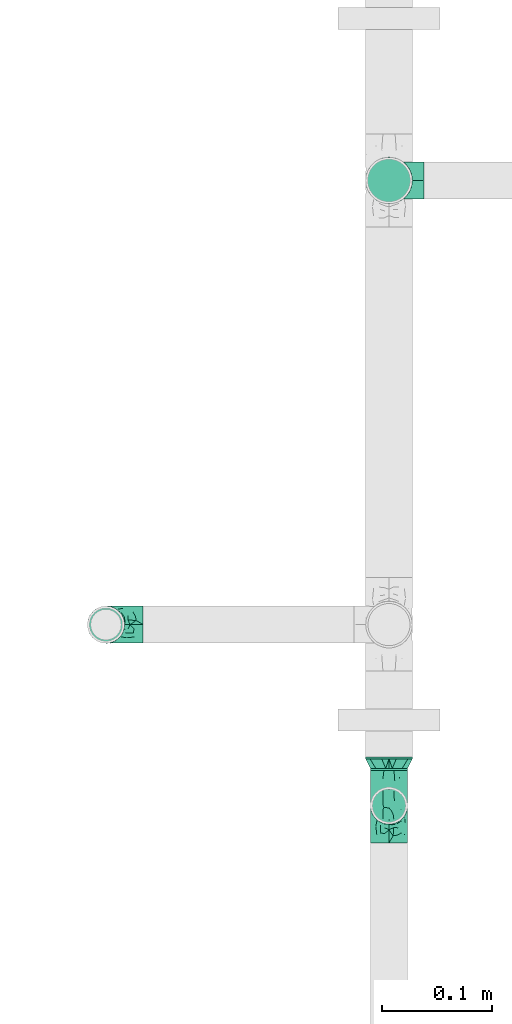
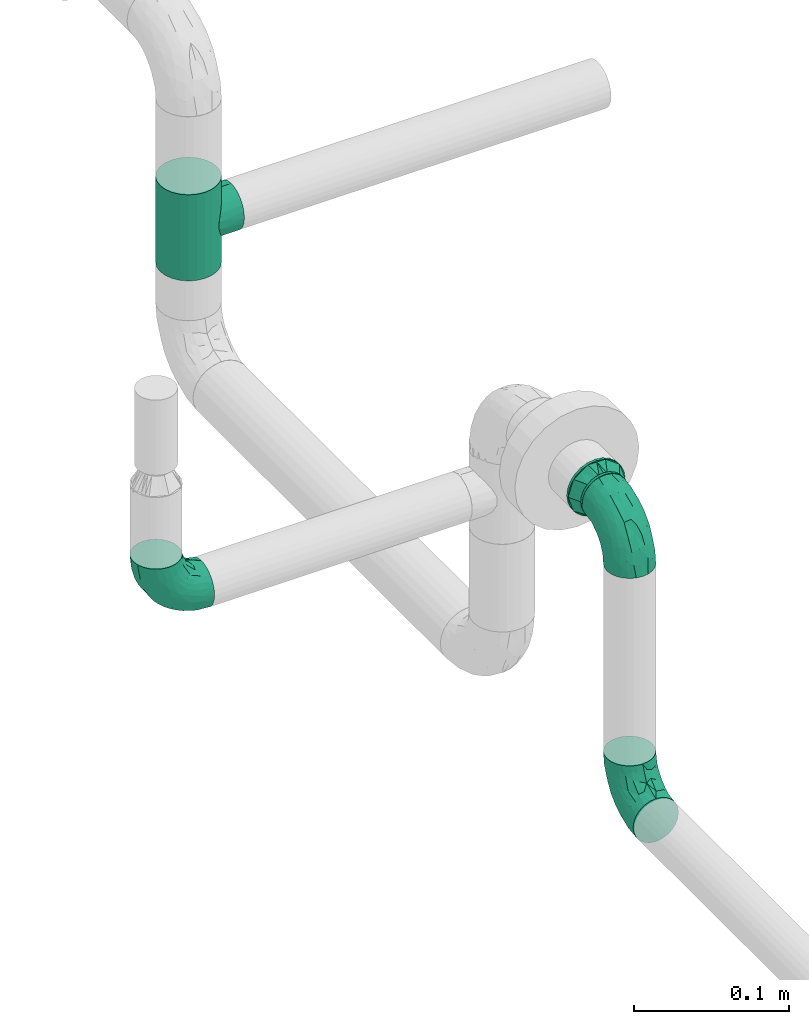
# One storey, part 18 of 43: 5 flow fittings.
"""IFC2X3 building model written with IfcOpenShell, lengths in millimetres."""

import ifcopenshell
import ifcopenshell.guid

model = None  # the IFC model being written
_history = None  # IfcOwnerHistory: only IFC2X3 demands one
_inside = {}  # id of a spatial element -> (the spatial element, [elements in it])
_under = {}  # id of a project, library or spatial element -> (it, [spatial elements below it])
_declared = {}  # id of a project -> (the project, [libraries it declares])
_typed = {}  # id of a type object -> (the type object, [elements of that type])
_made_of = {}  # id of a material, layer set ... -> (it, [elements and type objects made of it])


def new_model(schema):
    """Start an empty IFC model of exactly this schema.

    Asked for "IFC4X3", IfcOpenShell would pick the latest addendum, in which some entities
    have other attributes; the version numbers below select the first issue.
    IFC2X3 requires an IfcOwnerHistory on every rooted entity: one is made here for all.
    """
    global model, _history
    if schema == "IFC4X3":
        model = ifcopenshell.file(schema_version=(4, 3, 0, 0))
    else:
        model = ifcopenshell.file(schema=schema)
    _inside.clear()
    _under.clear()
    _declared.clear()
    _typed.clear()
    _made_of.clear()
    _history = None
    if model.schema == "IFC2X3":
        org = make("IfcOrganization", Name="unknown")
        user = make(
            "IfcPersonAndOrganization",
            ThePerson=make("IfcPerson", FamilyName="unknown"),
            TheOrganization=org,
        )
        app = make(
            "IfcApplication",
            ApplicationDeveloper=org,
            Version="unknown",
            ApplicationFullName="unknown",
            ApplicationIdentifier="unknown",
        )
        _history = make(
            "IfcOwnerHistory",
            OwningUser=user,
            OwningApplication=app,
            ChangeAction="ADDED",
            CreationDate=0,
        )
    return model


def make(cls, **values):
    """One entity of the class cls with the attributes given. An attribute that is None is left unset."""
    return model.create_entity(
        cls, **{name: value for name, value in values.items() if value is not None}
    )


def entity(cls, *values):
    """Any entity or typed value of the class cls, its attributes in the order of the schema. None: left unset."""
    e = model.create_entity(cls)
    for i, value in enumerate(values):
        if value is not None:
            e[i] = value
    return e


def rooted(cls, **values):
    """An entity with a GlobalId (a new one), such as an element, a storey or a relation."""
    return make(cls, GlobalId=ifcopenshell.guid.new(), OwnerHistory=_history, **values)


def si_unit(unit_type, name, prefix=None):
    """IfcSIUnit, for example si_unit("LENGTHUNIT", "METRE", prefix="MILLI")."""
    return make("IfcSIUnit", UnitType=unit_type, Prefix=prefix, Name=name)


def converted_unit(unit_type, name, factor, base, dimensions=None, offset=None):
    """IfcConversionBasedUnit, such as the inch: factor (a typed value) times the base unit."""
    return make(
        "IfcConversionBasedUnit"
        if offset is None
        else "IfcConversionBasedUnitWithOffset",
        ConversionOffset=offset,
        Dimensions=None
        if dimensions is None
        else entity("IfcDimensionalExponents", *dimensions),
        UnitType=unit_type,
        Name=name,
        ConversionFactor=make(
            "IfcMeasureWithUnit", ValueComponent=factor, UnitComponent=base
        ),
    )


def derived_unit(unit_type, elements):
    """IfcDerivedUnit: a product of units, each with its exponent."""
    return make(
        "IfcDerivedUnit",
        Elements=[
            make("IfcDerivedUnitElement", Unit=unit, Exponent=power)
            for unit, power in elements
        ],
        UnitType=unit_type,
    )


def assignment(units):
    """IfcUnitAssignment: the units of a project."""
    return None if units is None else make("IfcUnitAssignment", Units=units)


def point(xyz):
    """IfcCartesianPoint."""
    return None if xyz is None else make("IfcCartesianPoint", Coordinates=xyz)


def direction(xyz):
    """IfcDirection."""
    return None if xyz is None else make("IfcDirection", DirectionRatios=xyz)


def frame(location, z_axis=None, x_axis=None):
    """IfcAxis2Placement3D, a coordinate frame: its origin and axes. An axis left out is left unset."""
    return make(
        "IfcAxis2Placement3D",
        Location=point(location),
        Axis=direction(z_axis),
        RefDirection=direction(x_axis),
    )


def origin_with_axes():
    """The frame at (0, 0, 0) with the z axis (0, 0, 1) and the x axis (1, 0, 0) written out."""
    return frame((0.0, 0.0, 0.0), z_axis=(0.0, 0.0, 1.0), x_axis=(1.0, 0.0, 0.0))


def place(relative_to, where):
    """IfcLocalPlacement: puts the frame where relative to a parent placement (None: the world)."""
    return make(
        "IfcLocalPlacement", PlacementRelTo=relative_to, RelativePlacement=where
    )


def context(
    kind, dimensions, precision=None, world=None, true_north=None, identifier=None
):
    """IfcGeometricRepresentationContext, for example the 3D "Model" context."""
    return make(
        "IfcGeometricRepresentationContext",
        ContextIdentifier=identifier,
        ContextType=kind,
        CoordinateSpaceDimension=dimensions,
        Precision=precision,
        WorldCoordinateSystem=world,
        TrueNorth=true_north,
    )


def subcontext(parent, identifier, kind, view, scale=None):
    """IfcGeometricRepresentationSubContext, for example "Body" below "Model"."""
    return make(
        "IfcGeometricRepresentationSubContext",
        ContextIdentifier=identifier,
        ContextType=kind,
        ParentContext=parent,
        TargetScale=scale,
        TargetView=view,
    )


def project(units=None, contexts=None):
    """IfcProject with its units and contexts."""
    return rooted(
        "IfcProject",
        Name="project",
        RepresentationContexts=contexts,
        UnitsInContext=assignment(units),
    )


def spatial(cls, under=None, at=None, **own):
    """A site, building, storey or space (cls), placed at a placement, below another one or the project."""
    s = rooted(cls, ObjectPlacement=at, **own)
    if under is not None:
        _under.setdefault(under.id(), (under, []))[1].append(s)
    return s


def faces_of(points, faces, orient=None, outer=None):
    """IfcFace entities. A face is a list of loops; a loop is a list of indices into points, from 0.

    orient and outer hold one flag for each loop. By default every Orientation is true, the
    first loop of a face is its IfcFaceOuterBound and the others are IfcFaceBound.
    """
    made = []
    for i, loops in enumerate(faces):
        bounds = []
        for j, loop in enumerate(loops):
            is_outer = j == 0 if outer is None else outer[i][j]
            bounds.append(
                make(
                    "IfcFaceOuterBound" if is_outer else "IfcFaceBound",
                    Bound=make("IfcPolyLoop", Polygon=[points[k] for k in loop]),
                    Orientation=True if orient is None else orient[i][j],
                )
            )
        made.append(make("IfcFace", Bounds=bounds))
    return made


def open_shell(faces, orient=None, outer=None):
    """The faces of one IfcOpenShell. surface_model builds it on its shared points."""
    return ("IfcOpenShell", faces, orient, outer)


def surface_model(cls, points, shells):
    """IfcFaceBasedSurfaceModel or IfcShellBasedSurfaceModel (cls): surfaces that need not close."""
    shared = [point(p) for p in points]
    made = [make(c, CfsFaces=faces_of(shared, fs, o, b)) for c, fs, o, b in shells]
    if cls == "IfcFaceBasedSurfaceModel":
        return make(cls, FbsmFaces=made)
    return make(cls, SbsmBoundary=made)


def shape(context_of_items, identifier, shape_type, items):
    """IfcShapeRepresentation: the items that make up one representation, for example the "Body"."""
    return make(
        "IfcShapeRepresentation",
        ContextOfItems=context_of_items,
        RepresentationIdentifier=identifier,
        RepresentationType=shape_type,
        Items=items,
    )


def source(mapping_origin, context_of_items, identifier, shape_type, items):
    """IfcRepresentationMap: a shape defined once, which mapped items show again and again."""
    return make(
        "IfcRepresentationMap",
        MappingOrigin=mapping_origin,
        MappedRepresentation=shape(context_of_items, identifier, shape_type, items),
    )


def transform(
    local_origin,
    x_axis=None,
    y_axis=None,
    z_axis=None,
    scale=None,
    scale2=None,
    scale3=None,
    uniform=True,
):
    """IfcCartesianTransformationOperator3D, or its non-uniform kind. x_axis, y_axis, z_axis: its Axis1, 2, 3."""
    if uniform:
        return make(
            "IfcCartesianTransformationOperator3D",
            Axis1=direction(x_axis),
            Axis2=direction(y_axis),
            LocalOrigin=point(local_origin),
            Scale=scale,
            Axis3=direction(z_axis),
        )
    return make(
        "IfcCartesianTransformationOperator3DnonUniform",
        Axis1=direction(x_axis),
        Axis2=direction(y_axis),
        LocalOrigin=point(local_origin),
        Scale=scale,
        Axis3=direction(z_axis),
        Scale2=scale2,
        Scale3=scale3,
    )


def mapped(mapping_source, mapping_target):
    """IfcMappedItem: shows the shape of a source again, moved by a transform."""
    return make(
        "IfcMappedItem", MappingSource=mapping_source, MappingTarget=mapping_target
    )


def made_of(thing, what):
    """Note that an element or type object is made of a material, layer set ...; save() writes the relation."""
    if what is not None:
        _made_of.setdefault(what.id(), (what, []))[1].append(thing)
    return thing


def type_object(cls, material=None, **own):
    """A type object (cls), such as IfcWallType, which elements share."""
    return made_of(rooted(cls, **own), material)


def element(
    cls,
    number,
    at=None,
    inside=None,
    cuts=None,
    type_object=None,
    material=None,
    context=None,
    identifier="Body",
    shape_type=None,
    held_by="IfcProductDefinitionShape",
    body=None,
    shapes=None,
    **own,
):
    """One element of the class cls, such as IfcWall. Its Tag is "e" and its number.

    at: its placement. inside: the storey or other place that contains it. cuts: it is an
    opening in that element (IfcRelVoidsElement). A single representation is given by context,
    identifier, shape_type and body (its items); several are given by shapes. held_by: the class
    of the entity that holds the representations. save() writes the other relations.
    """
    e = rooted(cls, Tag="e%d" % number, ObjectPlacement=at, **own)
    if body is not None:
        shapes = [shape(context, identifier, shape_type, body)]
    if shapes is not None:
        e.Representation = make(held_by, Representations=shapes)
    if inside is not None:
        _inside.setdefault(inside.id(), (inside, []))[1].append(e)
    if cuts is not None:
        rooted(
            "IfcRelVoidsElement", RelatingBuildingElement=cuts, RelatedOpeningElement=e
        )
    if type_object is not None:
        _typed.setdefault(type_object.id(), (type_object, []))[1].append(e)
    return made_of(e, material)


def aggregate(whole, parts):
    """IfcRelAggregates: a whole, such as a stair, and the parts it consists of."""
    return rooted("IfcRelAggregates", RelatingObject=whole, RelatedObjects=parts)


def save(model, path):
    """Write the relations noted so far, then the file.

    IfcRelAggregates (storeys below a building ...), IfcRelContainedInSpatialStructure (elements
    in a storey), IfcRelDefinesByType, IfcRelAssociatesMaterial and IfcRelDeclares: one each for
    every whole, place, type object, material and project.
    """
    for whole, parts in _under.values():
        aggregate(whole, parts)
    for where, things in _inside.values():
        rooted(
            "IfcRelContainedInSpatialStructure",
            RelatedElements=things,
            RelatingStructure=where,
        )
    for kind, things in _typed.values():
        rooted("IfcRelDefinesByType", RelatedObjects=things, RelatingType=kind)
    for what, things in _made_of.values():
        rooted("IfcRelAssociatesMaterial", RelatedObjects=things, RelatingMaterial=what)
    for by, libraries in _declared.values():
        rooted("IfcRelDeclares", RelatingContext=by, RelatedDefinitions=libraries)
    model.write(path)


model = new_model("IFC2X3")

# Units and contexts
model_context = context("Model", 3, precision=0.01, world=frame((0.0, 4.29681676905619e-09, 0.0)), true_north=direction((4.01073788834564e-13, 1.0)))
plan_context = context("Plan", 3, precision=0.01, world=frame((0.0, 4.29681676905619e-09, 0.0)), true_north=direction((4.01073788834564e-13, 1.0)))
body_context = subcontext(model_context, "Body", "Model", "MODEL_VIEW")
ifc_project = project(units=[converted_unit("PLANEANGLEUNIT", "DEGREE", entity("IfcPositiveLengthMeasure", 0.0174532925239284), si_unit("PLANEANGLEUNIT", "RADIAN"), dimensions=[0, 0, 0, 0, 0, 0, 0]), si_unit("AREAUNIT", "SQUARE_METRE"), si_unit("LENGTHUNIT", "METRE", prefix="MILLI"), si_unit("MASSUNIT", "GRAM", prefix="KILO"), si_unit("POWERUNIT", "WATT"), si_unit("PRESSUREUNIT", "PASCAL"), si_unit("FORCEUNIT", "NEWTON", prefix="KILO"), si_unit("ELECTRICVOLTAGEUNIT", "VOLT"), si_unit("ELECTRICCURRENTUNIT", "AMPERE"), si_unit("THERMODYNAMICTEMPERATUREUNIT", "DEGREE_CELSIUS"), si_unit("TIMEUNIT", "SECOND"), si_unit("VOLUMEUNIT", "CUBIC_METRE"), derived_unit("LINEARVELOCITYUNIT", [(si_unit("LENGTHUNIT", "METRE"), 1), (si_unit("TIMEUNIT", "SECOND"), -1)]), derived_unit("VOLUMETRICFLOWRATEUNIT", [(si_unit("VOLUMEUNIT", "CUBIC_METRE"), 1), (si_unit("TIMEUNIT", "SECOND"), -1)]), derived_unit("THERMALTRANSMITTANCEUNIT", [(si_unit("POWERUNIT", "WATT"), 1), (si_unit("THERMODYNAMICTEMPERATUREUNIT", "KELVIN"), -1), (si_unit("AREAUNIT", "SQUARE_METRE"), -1)]), derived_unit("SOUNDPRESSUREUNIT", [(si_unit("PRESSUREUNIT", "PASCAL"), 1)])], contexts=[model_context, plan_context])

# Site, building, storey
site_placement = place(None, frame((0.0, -4.29681676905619e-09, 0.0), z_axis=(0.0, 0.0, 1.0), x_axis=(1.0, 0.0, 0.0)))
site = spatial("IfcSite", under=ifc_project, at=site_placement, CompositionType="ELEMENT")
building_placement = place(site_placement, frame((0.0, 4.29681676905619e-09, 0.0), z_axis=(0.0, 0.0, 1.0), x_axis=(1.0, 0.0, 0.0)))
building = spatial("IfcBuilding", under=site, at=building_placement, Name="mc-building", CompositionType="ELEMENT")
storey_placement = place(building_placement, frame((0.0, 0.0, 210900.0), z_axis=(0.0, 0.0, 1.0), x_axis=(1.0, 0.0, 0.0)))
storey = spatial("IfcBuildingStorey", under=building, at=storey_placement, Name="Nivå F", CompositionType="ELEMENT", Elevation=210900.0)

# Flow fittings
pipe_fitting_type_1 = type_object("IfcPipeFittingType", Name="magi_pipe_fe_elbow_short_001", PredefinedType="BEND")
shared_shape_1 = source(origin_with_axes(), body_context, "Body", "SurfaceModel", [
    surface_model("IfcShellBasedSurfaceModel", [(-33.8, 4.37404, -16.32415), (-33.8, 0.0, -16.9), (-33.8, 11.9501, -11.9501), (-33.8, 8.45, -14.63583), (-33.8, 16.32415, -4.37404), (-33.8, 14.63583, -8.45), (-33.8, -14.63583, -8.45), (-33.8, -16.32415, -4.37404), (-33.8, -8.45, 14.63583), (-33.8, -11.9501, -11.9501), (-33.8, -8.45, -14.63583), (-33.8, -4.37404, -16.32415), (-33.8, -16.9, 0.0), (-33.8, -16.32415, 4.37404), (-33.8, 11.9501, 11.9501), (-33.8, 14.63583, 8.45), (-33.8, 16.32415, 4.37404), (-33.8, 4.37404, 16.32415), (-33.8, 8.45, 14.63583), (-33.8, -14.63583, 8.45), (-33.8, -11.9501, 11.9501), (-33.8, -4.37404, 16.32415), (-33.8, 0.0, 16.9), (-33.8, 16.9, 0.0), (-11.9501, 33.8, -11.9501), (0.0, 33.8, -16.9), (-4.37404, 33.8, -16.32415), (-8.45, 33.8, -14.63583), (-14.63583, 33.8, -8.45), (-16.32415, 33.8, -4.37404), (14.63583, 33.8, -8.45), (8.45, 33.8, 14.63583), (16.32415, 33.8, -4.37404), (8.45, 33.8, -14.63583), (11.9501, 33.8, -11.9501), (4.37404, 33.8, -16.32415), (16.32415, 33.8, 4.37404), (16.9, 33.8, 0.0), (-11.9501, 33.8, 11.9501), (-16.32415, 33.8, 4.37404), (-14.63583, 33.8, 8.45), (-8.45, 33.8, 14.63583), (-4.37404, 33.8, 16.32415), (11.9501, 33.8, 11.9501), (14.63583, 33.8, 8.45), (0.0, 33.8, 16.9), (4.37404, 33.8, 16.32415), (-16.9, 33.8, 0.0), (-24.79389, -13.12945, 9.48721), (-22.19287, -9.75018, 12.59315), (-24.09897, -14.97035, 0.0), (-14.93934, -10.76256, 8.5297), (-22.46095, -14.75051, 5.27077), (14.75051, 22.46094, 5.27077), (11.9251, 13.23888, 4.33236), (13.04069, 14.39795, 0.0), (7.71387, 13.68847, 11.55891), (9.75018, 22.19287, 12.59315), (4.10169, 13.0571, 14.04018), (-24.84007, -6.39063, 15.2048), (-25.81779, -2.23879, 16.61097), (-23.66549, 2.59054, 16.87119), (-26.50418, 14.06512, 11.08152), (-24.21253, 17.66365, 7.72657), (-29.58514, 15.86957, 7.00283), (-6.17382, -7.5455, 0.0), (-13.23888, -11.9251, 4.33236), (-14.39795, -13.04069, 0.0), (-17.81434, 18.87373, 11.97104), (-6.30846, 29.15138, 15.82987), (-2.31622, 25.28002, 16.85849), (-29.23923, 10.23435, 13.77053), (-1.45439, -2.85688, 7.61475), (-0.28326, 0.34872, 10.09509), (-5.74484, -4.04709, 10.4122), (-4.41137, 11.31918, 16.59407), (-8.39727, 3.10034, 15.7812), (-1.72649, 9.1306, 15.53089), (-17.39909, 24.75344, 7.64977), (-26.19233, 20.0512, 0.0), (-28.14518, 17.29657, 4.25857), (-26.05147, 6.6281, 15.96447), (-5.87354, 16.61944, 16.86968), (-12.51807, 12.51807, 16.48937), (-10.06312, 7.38516, 16.81295), (-3.01882, 3.01882, 13.81718), (-13.0571, -4.10169, 14.04018), (-16.82553, -0.15166, 16.38038), (10.76256, 14.93934, 8.5297), (13.12945, 24.79389, 9.48721), (6.39063, 24.84007, 15.2048), (2.23879, 25.81779, 16.61097), (-13.68847, -7.71387, 11.55891), (14.97035, 24.09897, 0.0), (-7.30894, 22.89991, 16.09489), (-10.67958, 26.17414, 14.008), (-12.78295, 18.26924, 15.06066), (-13.88562, 22.45231, 12.93244), (-18.04944, 15.16501, 14.04434), (-23.11658, 20.08178, 4.02986), (-21.84989, 21.84989, 0.0), (-18.55817, 25.48277, 3.93065), (-13.95142, 26.94732, 11.03289), (-18.57098, 7.23906, 16.59756), (-16.58335, 4.14122, 16.89279), (-17.96666, 11.46709, 15.63151), (-9.84453, 17.54304, 16.18938), (0.15166, 16.82553, 16.38038), (-23.27207, 11.47201, 14.23154), (3.84842, 5.86994, 10.70473), (-8.0212, -7.54413, 7.93275), (1.00345, -2.19508, 4.57414), (5.13203, 3.01004, 5.90201), (5.24161, 1.7543, 2.53265), (8.70457, 7.04947, 3.99182), (-20.0512, 26.19233, 0.0), (8.4852, 8.76699, 7.09296), (-4.55488, -6.72064, 4.90681), (2.05031, -2.05031, 0.0), (7.5455, 6.17382, 0.0), (-26.75399, 2.1369, -16.845), (-14.61995, 24.73803, -11.27736), (-28.45274, -13.45335, -9.81895), (-26.00469, 6.63555, -15.96645), (-23.06726, 20.04573, -4.26202), (-13.80647, -4.26506, -14.17873), (-14.67501, -0.21081, -16.07388), (-6.7902, -0.2828, -13.8478), (-24.53586, 11.08096, -14.13417), (-26.72048, 14.00837, -11.05776), (10.0967, 24.44989, -12.75976), (5.83237, 21.40218, -15.03047), (6.66249, 28.54238, -15.38093), (-20.38182, 15.48705, -12.74596), (-15.65186, 19.64213, -13.01327), (-12.03528, 20.66498, -14.67665), (-15.61907, 15.61906, -14.83879), (-25.56551, -15.26206, 0.0), (-24.65452, -15.12934, -5.50955), (12.53268, 21.23441, -9.15363), (13.45335, 28.45274, -9.81895), (15.12934, 24.65452, -5.50955), (-7.35442, -8.31014, -5.65563), (-15.67504, -12.54494, -5.54878), (-24.44989, -10.0967, -12.75976), (0.16522, 0.41303, -9.71728), (-5.70658, -5.33066, -8.89288), (-5.13869, -2.37198, -11.53565), (-21.23441, -12.53268, -9.15363), (0.71146, 7.93863, -14.09382), (0.21081, 14.67501, -16.07388), (3.49291, 14.42772, -14.76381), (-24.89911, -2.13088, -16.591), (-28.54238, -6.66249, -15.38093), (-18.44386, -7.71663, -13.26957), (2.13088, 24.89911, -16.591), (-28.64342, 17.44413, -2.89318), (1.70017, -1.28722, -5.09504), (-16.57067, 26.81947, -7.36596), (-17.69055, 27.4263, -3.76405), (-12.89279, -9.7522, -8.66343), (-5.96611, 5.96611, -15.95814), (-20.53709, 20.09345, -8.28985), (-2.1369, 26.75399, -16.845), (-6.89872, 24.58781, -16.02578), (-10.60739, 26.53157, -13.98044), (-21.40218, -5.83237, -15.03047), (2.93192, 5.89627, -11.55917), (6.89393, 12.61842, -11.82233), (5.58056, 5.95325, -8.79455), (-3.99512, 18.61798, -16.89635), (-9.1383, 9.86148, -16.89041), (-9.99983, 16.02119, -16.39699), (-16.68576, 9.78031, -16.34199), (-27.01915, 16.61158, -7.12979), (15.26206, 25.56551, 0.0), (-18.61798, 3.99512, -16.89635), (-19.37495, 27.82495, 0.0), (9.7522, 12.89279, -8.66343), (-12.61842, -6.89393, -11.82233), (8.31014, 7.35442, -5.65563), (-18.84705, 19.14018, -10.96545), (12.54494, 15.67504, -5.54878)], [open_shell([[[0, 1, 2]], [[3, 0, 2]], [[4, 5, 2]], [[6, 2, 1]], [[2, 7, 8]], [[9, 6, 10]], [[1, 11, 10]], [[10, 6, 1]], [[2, 6, 7]], [[12, 13, 7]], [[4, 2, 14]], [[4, 15, 16]], [[4, 14, 15]], [[17, 18, 14]], [[14, 2, 8]], [[17, 14, 8]], [[19, 20, 13]], [[20, 7, 13]], [[21, 22, 8]], [[20, 8, 7]], [[8, 22, 17]], [[4, 16, 23]], [[24, 25, 26]], [[24, 26, 27]], [[24, 28, 29]], [[25, 24, 30]], [[31, 32, 24]], [[33, 30, 34]], [[33, 35, 25]], [[25, 30, 33]], [[32, 30, 24]], [[32, 36, 37]], [[38, 24, 29]], [[39, 40, 29]], [[40, 38, 29]], [[38, 41, 42]], [[38, 31, 24]], [[31, 38, 42]], [[36, 43, 44]], [[36, 32, 43]], [[31, 45, 46]], [[32, 31, 43]], [[42, 45, 31]], [[39, 29, 47]], [[20, 48, 49]], [[13, 12, 50]], [[51, 48, 52]], [[53, 54, 55]], [[48, 20, 19]], [[13, 52, 19]], [[56, 57, 58]], [[49, 8, 20]], [[49, 59, 8]], [[22, 60, 61]], [[62, 63, 64]], [[65, 66, 67]], [[57, 43, 31]], [[62, 68, 63]], [[42, 69, 70]], [[18, 71, 14]], [[21, 60, 22]], [[72, 73, 74]], [[75, 76, 77]], [[14, 62, 15]], [[40, 39, 78]], [[79, 23, 80]], [[64, 16, 15]], [[22, 61, 17]], [[17, 81, 18]], [[82, 83, 84]], [[74, 85, 86]], [[59, 86, 87]], [[88, 89, 57]], [[90, 31, 46]], [[44, 53, 36]], [[46, 45, 91]], [[54, 53, 88]], [[44, 89, 53]], [[92, 86, 49]], [[89, 44, 43]], [[8, 59, 21]], [[53, 55, 93]], [[93, 36, 53]], [[66, 52, 67]], [[94, 82, 70]], [[95, 96, 94]], [[97, 98, 96]], [[79, 99, 100]], [[41, 38, 95]], [[101, 100, 99]], [[68, 78, 63]], [[42, 41, 69]], [[23, 16, 80]], [[95, 94, 69]], [[78, 101, 99]], [[38, 102, 95]], [[70, 45, 42]], [[97, 95, 102]], [[13, 50, 52]], [[90, 57, 31]], [[57, 90, 58]], [[81, 17, 61]], [[103, 104, 84]], [[105, 81, 103]], [[38, 40, 102]], [[106, 96, 83]], [[94, 106, 82]], [[91, 70, 107]], [[71, 62, 14]], [[62, 108, 98]], [[86, 59, 49]], [[67, 52, 50]], [[60, 59, 87]], [[92, 49, 51]], [[86, 85, 76]], [[91, 90, 46]], [[37, 36, 93]], [[107, 77, 58]], [[107, 58, 90]], [[58, 85, 109]], [[110, 74, 92]], [[72, 74, 110]], [[66, 51, 52]], [[72, 111, 112]], [[113, 114, 112]], [[56, 88, 57]], [[52, 48, 19]], [[49, 48, 51]], [[57, 89, 43]], [[53, 89, 88]], [[103, 81, 61]], [[71, 81, 108]], [[16, 64, 80]], [[63, 78, 99]], [[47, 115, 101]], [[101, 115, 100]], [[40, 78, 102]], [[68, 102, 78]], [[97, 96, 95]], [[105, 98, 108]], [[103, 84, 83]], [[107, 70, 82]], [[76, 84, 87]], [[82, 84, 75]], [[70, 91, 45]], [[90, 91, 107]], [[59, 60, 21]], [[61, 60, 87]], [[73, 85, 74]], [[109, 112, 116]], [[103, 61, 104]], [[105, 103, 83]], [[96, 105, 83]], [[81, 105, 108]], [[96, 98, 105]], [[62, 98, 68]], [[61, 87, 104]], [[87, 84, 104]], [[86, 76, 87]], [[77, 76, 85]], [[58, 77, 85]], [[75, 77, 107]], [[82, 75, 107]], [[76, 75, 84]], [[81, 71, 18]], [[62, 71, 108]], [[95, 69, 41]], [[70, 69, 94]], [[62, 64, 15]], [[80, 63, 99]], [[63, 80, 64]], [[80, 99, 79]], [[66, 65, 117]], [[110, 66, 117]], [[112, 114, 116]], [[118, 117, 65]], [[110, 92, 51]], [[112, 111, 113]], [[119, 55, 54]], [[74, 86, 92]], [[58, 109, 56]], [[116, 56, 109]], [[66, 110, 51]], [[72, 110, 117]], [[111, 72, 117]], [[73, 112, 109]], [[117, 118, 111]], [[113, 111, 118]], [[118, 119, 113]], [[114, 119, 54]], [[119, 114, 113]], [[116, 54, 88]], [[54, 116, 114]], [[116, 88, 56]], [[112, 73, 72]], [[85, 73, 109]], [[78, 39, 101]], [[47, 101, 39]], [[102, 68, 97]], [[97, 68, 98]], [[82, 106, 83]], [[94, 96, 106]], [[0, 120, 1]], [[28, 24, 121]], [[9, 122, 6]], [[3, 123, 0]], [[100, 124, 79]], [[125, 126, 127]], [[128, 2, 129]], [[130, 131, 132]], [[128, 129, 133]], [[134, 135, 136]], [[128, 3, 2]], [[67, 137, 138]], [[139, 140, 141]], [[138, 7, 6]], [[142, 65, 143]], [[144, 9, 10]], [[145, 146, 147]], [[143, 138, 148]], [[149, 150, 151]], [[152, 11, 1]], [[10, 153, 144]], [[148, 144, 154]], [[153, 10, 11]], [[35, 155, 25]], [[23, 79, 156]], [[146, 157, 142]], [[158, 159, 29]], [[143, 160, 142]], [[161, 150, 149]], [[29, 28, 158]], [[121, 162, 158]], [[33, 34, 130]], [[25, 163, 26]], [[26, 163, 164]], [[140, 34, 30]], [[24, 27, 165]], [[124, 159, 162]], [[155, 35, 132]], [[153, 152, 166]], [[123, 3, 128]], [[167, 168, 169]], [[170, 155, 150]], [[26, 164, 27]], [[132, 35, 33]], [[140, 130, 34]], [[166, 152, 126]], [[133, 134, 136]], [[2, 5, 129]], [[168, 131, 130]], [[30, 32, 141]], [[170, 171, 172]], [[173, 123, 128]], [[156, 174, 4]], [[165, 27, 164]], [[172, 164, 170]], [[134, 165, 135]], [[122, 138, 6]], [[137, 12, 7]], [[32, 37, 175]], [[168, 130, 139]], [[150, 155, 131]], [[163, 155, 170]], [[151, 168, 149]], [[150, 161, 171]], [[166, 125, 154]], [[122, 144, 148]], [[120, 152, 1]], [[176, 171, 126]], [[176, 126, 152]], [[126, 161, 127]], [[160, 143, 148]], [[137, 7, 138]], [[32, 175, 141]], [[55, 141, 175]], [[174, 129, 5]], [[128, 133, 136]], [[173, 128, 136]], [[120, 123, 176]], [[121, 158, 28]], [[159, 100, 177]], [[164, 172, 135]], [[121, 24, 165]], [[159, 47, 29]], [[79, 124, 156]], [[124, 162, 174]], [[159, 124, 100]], [[178, 169, 168]], [[127, 161, 149]], [[145, 169, 157]], [[146, 142, 160]], [[127, 149, 167]], [[127, 179, 125]], [[129, 174, 162]], [[5, 4, 174]], [[157, 65, 142]], [[67, 138, 143]], [[123, 120, 0]], [[152, 120, 176]], [[155, 163, 25]], [[164, 163, 170]], [[170, 150, 171]], [[173, 136, 172]], [[126, 171, 161]], [[173, 171, 176]], [[171, 173, 172]], [[123, 173, 176]], [[148, 179, 160]], [[127, 147, 179]], [[179, 146, 160]], [[157, 146, 145]], [[169, 178, 180]], [[168, 139, 178]], [[157, 169, 180]], [[169, 145, 167]], [[167, 145, 147]], [[149, 168, 167]], [[162, 181, 129]], [[181, 121, 134]], [[179, 147, 146]], [[167, 147, 127]], [[181, 134, 133]], [[165, 134, 121]], [[164, 135, 165]], [[172, 136, 135]], [[129, 181, 133]], [[121, 181, 162]], [[159, 158, 162]], [[47, 159, 177]], [[174, 156, 124]], [[23, 156, 4]], [[130, 132, 33]], [[155, 132, 131]], [[141, 140, 30]], [[130, 140, 139]], [[152, 153, 11]], [[144, 153, 166]], [[144, 122, 9]], [[138, 122, 148]], [[150, 131, 151]], [[157, 119, 118]], [[67, 143, 65]], [[168, 151, 131]], [[119, 157, 180]], [[157, 118, 65]], [[154, 125, 179]], [[126, 125, 166]], [[148, 154, 179]], [[166, 154, 144]], [[139, 182, 178]], [[141, 182, 139]], [[178, 182, 180]], [[182, 55, 119]], [[141, 55, 182]], [[182, 119, 180]]])]),
])
for number, where, z_axis, x_axis, name in (
    (1, (610109.53901, 690991.77265, 2560.0), (0.00108100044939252, -0.999999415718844, 0.0), (0.0, 0.0, -1.0), "magi_pipe_fe_elbow_short_001"),
    (2, (610366.6122, 690827.40046, 2630.0), (1.0, 0.0, 0.0), (0.0, -1.0, 0.0), "magi_pipe_fe_elbow_short_001"),
    (3, (610366.6122, 690827.40046, 2415.0), (-1.0, 0.0, 0.0), (0.0, 0.0, -1.0), "magi_pipe_fe_elbow_short_001"),
):
    element("IfcFlowFitting", number, at=place(storey_placement, frame(where, z_axis=z_axis, x_axis=x_axis)), inside=storey, type_object=pipe_fitting_type_1, Name=name, context=body_context, shape_type="MappedRepresentation", body=[
        mapped(shared_shape_1, transform((0.0, 0.0, 0.0), scale=1.0)),
    ])
pipe_fitting_type_2 = type_object("IfcPipeFittingType", Name="magi_pipe_fe_tee_centric_90_NOR", PredefinedType="JUNCTION")
shared_shape_2 = source(origin_with_axes(), body_context, "Body", "SurfaceModel", [
    surface_model("IfcShellBasedSurfaceModel", [(-33.8, 0.0, -21.2), (-33.8, -5.48696, -20.47763), (-33.8, 5.48696, -20.47763), (-33.8, 10.6, -18.35974), (-33.8, 14.99066, -14.99066), (-33.8, -20.47763, 5.48696), (-33.8, 18.35974, -10.6), (-33.8, 10.6, 18.35974), (-33.8, -14.99066, -14.99066), (-33.8, -18.35974, -10.6), (-33.8, -10.6, -18.35974), (-33.8, -20.47763, -5.48696), (-33.8, -21.2, 0.0), (-33.8, 18.35974, 10.6), (-33.8, 20.47763, -5.48696), (-33.8, 20.47763, 5.48696), (-33.8, 21.2, 0.0), (-33.8, 14.99066, 14.99066), (-33.8, 5.48696, 20.47763), (-33.8, 0.0, 21.2), (-33.8, -18.35974, 10.6), (-33.8, -14.99066, 14.99066), (-33.8, -10.6, 18.35974), (-33.8, -5.48696, 20.47763), (33.8, 5.48696, -20.47763), (33.8, -5.48696, -20.47763), (33.8, 0.0, -21.2), (33.8, 14.99066, -14.99066), (33.8, 10.6, -18.35974), (33.8, 18.35974, -10.6), (33.8, 20.47763, -5.48696), (33.8, -21.2, 0.0), (33.8, -10.6, -18.35974), (33.8, -18.35974, -10.6), (33.8, -14.99066, -14.99066), (33.8, -20.47763, -5.48696), (33.8, -20.47763, 5.48696), (33.8, 21.2, 0.0), (33.8, 20.47763, 5.48696), (33.8, 18.35974, 10.6), (33.8, 10.6, 18.35974), (33.8, 14.99066, 14.99066), (33.8, 0.0, 21.2), (33.8, 5.48696, 20.47763), (33.8, -14.99066, 14.99066), (33.8, -18.35974, 10.6), (33.8, -10.6, 18.35974), (33.8, -5.48696, 20.47763), (16.9, -21.2, 0.0), (15.78624, -20.32327, 6.03364), (12.81343, -18.11115, 11.01935), (8.52479, -15.37862, 14.59239), (3.07939, -13.16482, 16.61708), (-16.9, -21.2, 0.0), (-15.78686, -20.32375, 6.032), (-8.52604, -15.37932, 14.59166), (-3.0848, -13.16609, 16.61608), (-12.81602, -18.11299, 11.01634), (3.07939, -13.16482, -16.61708), (12.81343, -18.11115, -11.01935), (8.52479, -15.37862, -14.59239), (15.78624, -20.32327, -6.03364), (-3.0848, -13.16609, -16.61608), (-8.52604, -15.37932, -14.59166), (-12.81602, -18.11299, -11.01634), (-15.78686, -20.32375, -6.032), (4.37404, -31.8, -16.32415), (-16.9, -31.8, 0.0), (0.0, -31.8, -16.9), (14.63583, -31.8, -8.45), (8.45, -31.8, -14.63583), (16.32415, -31.8, -4.37404), (11.9501, -31.8, -11.9501), (-11.9501, -31.8, -11.9501), (-8.45, -31.8, -14.63583), (-4.37404, -31.8, -16.32415), (-14.63583, -31.8, -8.45), (-16.32415, -31.8, -4.37404), (16.9, -31.8, 0.0), (8.45, -31.8, 14.63583), (16.32415, -31.8, 4.37404), (14.63583, -31.8, 8.45), (-8.45, -31.8, 14.63583), (11.9501, -31.8, 11.9501), (4.37404, -31.8, 16.32415), (-16.32415, -31.8, 4.37404), (-11.9501, -31.8, 11.9501), (-14.63583, -31.8, 8.45), (0.0, -31.8, 16.9), (-4.37404, -31.8, 16.32415), (-16.34343, -20.76188, 3.016), (16.34312, -20.76163, 3.01682), (-0.00271, -13.16546, 16.61658), (16.34312, -20.76163, -3.01682), (-0.00271, -13.16546, -16.61658), (-16.34343, -20.76188, -3.016)], [open_shell([[[0, 1, 2]], [[3, 2, 4]], [[5, 2, 1]], [[4, 2, 6]], [[6, 2, 7]], [[8, 9, 10]], [[1, 10, 9]], [[9, 11, 1]], [[12, 1, 11]], [[5, 1, 12]], [[13, 14, 6]], [[13, 15, 16]], [[6, 7, 13]], [[5, 7, 2]], [[17, 13, 7]], [[18, 7, 19]], [[20, 21, 5]], [[22, 5, 21]], [[23, 19, 22]], [[7, 5, 22]], [[22, 19, 7]], [[16, 14, 13]], [[24, 25, 26]], [[27, 24, 28]], [[29, 30, 24]], [[29, 24, 27]], [[31, 24, 30]], [[32, 33, 34]], [[33, 32, 25]], [[33, 31, 35]], [[31, 33, 25]], [[25, 24, 31]], [[30, 36, 31]], [[37, 38, 39]], [[37, 39, 40]], [[37, 40, 36]], [[40, 39, 41]], [[42, 40, 43]], [[36, 44, 45]], [[44, 36, 46]], [[46, 42, 47]], [[46, 36, 40]], [[40, 42, 46]], [[37, 36, 30]], [[31, 36, 48]], [[49, 48, 36]], [[36, 45, 49]], [[45, 44, 50]], [[51, 50, 44]], [[52, 51, 44]], [[44, 46, 52]], [[45, 50, 49]], [[53, 54, 5]], [[5, 12, 53]], [[54, 20, 5]], [[55, 56, 21]], [[20, 57, 21]], [[57, 20, 54]], [[21, 57, 55]], [[56, 22, 21]], [[52, 22, 56]], [[19, 47, 42]], [[23, 46, 47]], [[18, 42, 43]], [[39, 38, 15]], [[17, 40, 41]], [[13, 41, 39]], [[43, 40, 7]], [[16, 38, 37]], [[22, 46, 23]], [[23, 47, 19]], [[18, 19, 42]], [[43, 7, 18]], [[7, 40, 17]], [[13, 17, 41]], [[15, 13, 39]], [[38, 16, 15]], [[46, 22, 52]], [[6, 30, 29]], [[14, 37, 30]], [[4, 29, 27]], [[26, 25, 1]], [[2, 28, 24]], [[0, 24, 26]], [[27, 28, 3]], [[10, 25, 32]], [[16, 37, 14]], [[14, 30, 6]], [[4, 6, 29]], [[27, 3, 4]], [[3, 28, 2]], [[0, 2, 24]], [[1, 0, 26]], [[25, 10, 1]], [[32, 58, 10]], [[34, 59, 60]], [[59, 34, 33]], [[60, 58, 34]], [[34, 58, 32]], [[35, 31, 48]], [[35, 61, 33]], [[61, 35, 48]], [[33, 61, 59]], [[62, 63, 8]], [[8, 64, 9]], [[64, 8, 63]], [[62, 8, 10]], [[65, 53, 11]], [[65, 11, 9]], [[11, 53, 12]], [[65, 9, 64]], [[58, 62, 10]], [[66, 67, 68]], [[69, 66, 70]], [[69, 71, 66]], [[69, 70, 72]], [[67, 66, 71]], [[68, 73, 74]], [[74, 75, 68]], [[76, 67, 77]], [[73, 68, 76]], [[67, 76, 68]], [[71, 78, 67]], [[79, 78, 80]], [[79, 80, 81]], [[82, 67, 79]], [[79, 81, 83]], [[82, 79, 84]], [[85, 86, 87]], [[86, 85, 82]], [[82, 88, 89]], [[85, 67, 82]], [[84, 88, 82]], [[79, 67, 78]], [[85, 90, 67]], [[57, 87, 86]], [[85, 87, 54]], [[86, 82, 55]], [[85, 54, 90]], [[90, 53, 67]], [[54, 87, 57]], [[91, 49, 80]], [[55, 89, 56]], [[55, 57, 86]], [[88, 52, 92]], [[55, 82, 89]], [[52, 88, 84]], [[79, 51, 84]], [[50, 83, 81]], [[83, 51, 79]], [[81, 80, 49]], [[83, 50, 51]], [[51, 52, 84]], [[78, 91, 80]], [[49, 50, 81]], [[91, 78, 48]], [[88, 56, 89]], [[92, 56, 88]], [[71, 93, 78]], [[59, 69, 72]], [[71, 69, 61]], [[72, 70, 60]], [[93, 48, 78]], [[61, 69, 59]], [[60, 66, 58]], [[60, 59, 72]], [[68, 62, 94]], [[60, 70, 66]], [[95, 67, 53]], [[95, 65, 77]], [[71, 61, 93]], [[75, 62, 68]], [[65, 76, 77]], [[73, 76, 64]], [[68, 58, 66]], [[75, 63, 62]], [[63, 75, 74]], [[74, 73, 63]], [[63, 73, 64]], [[64, 76, 65]], [[67, 95, 77]], [[94, 58, 68]]])]),
])
flow_fitting_1_placement = place(storey_placement, frame((610366.6122, 691395.18624, 2522.5), z_axis=(0.0, -1.0, 0.0), x_axis=(0.0, 0.0, 1.0)))
element("IfcFlowFitting", 4, at=flow_fitting_1_placement, inside=storey, type_object=pipe_fitting_type_2, Name="magi_pipe_fe_tee_centric_90_NOR", context=body_context, shape_type="MappedRepresentation", body=[
    mapped(shared_shape_2, transform((0.0, 0.0, 0.0), scale=1.0)),
])
pipe_fitting_type_3 = type_object("IfcPipeFittingType", Name="magi_pipe_fe_reducer_centric_short_NOR", PredefinedType="TRANSITION")
shared_shape_3 = source(origin_with_axes(), body_context, "Body", "SurfaceModel", [
    surface_model("IfcShellBasedSurfaceModel", [(10.6, 4.37404, -16.32415), (10.6, 8.45, -14.63583), (10.6, 11.9501, -11.9501), (10.6, -8.45, -14.63583), (10.6, 16.32415, -4.37404), (10.6, 16.32415, 4.37404), (10.6, 14.63583, -8.45), (10.6, 0.0, -16.9), (10.6, -4.37404, -16.32415), (10.6, -11.9501, -11.9501), (10.6, -16.32415, -4.37404), (10.6, -14.63583, -8.45), (10.6, -16.32415, 4.37404), (10.6, 16.9, 0.0), (10.6, 14.63583, 8.45), (10.6, 11.9501, 11.9501), (10.6, 4.37404, 16.32415), (10.6, 8.45, 14.63583), (10.6, 0.0, 16.9), (10.6, -14.63583, 8.45), (10.6, -16.9, 0.0), (10.6, -8.45, 14.63583), (10.6, -11.9501, 11.9501), (10.6, -4.37404, 16.32415), (8.6, 4.37404, 16.32415), (8.6, -14.63583, 8.45), (8.6, 0.0, 16.9), (8.6, 16.32415, 4.37404), (8.6, 8.45, 14.63583), (8.6, 11.9501, 11.9501), (8.6, 14.63583, 8.45), (8.6, -8.45, 14.63583), (8.6, -11.9501, 11.9501), (8.6, -4.37404, 16.32415), (8.6, -16.32415, 4.37404), (8.6, -16.32415, -4.37404), (8.6, -16.9, 0.0), (8.6, -8.45, -14.63583), (8.6, 16.32415, -4.37404), (8.6, 11.9501, -11.9501), (8.6, 14.63583, -8.45), (8.6, 8.45, -14.63583), (8.6, 4.37404, -16.32415), (8.6, 0.0, -16.9), (8.6, -11.9501, -11.9501), (8.6, -14.63583, -8.45), (8.6, -4.37404, -16.32415), (8.6, 16.9, 0.0), (-2.0, 0.0, 21.2), (-2.0, 5.48696, 20.47763), (-2.0, 10.6, 18.35974), (-2.0, 14.99066, 14.99066), (-2.0, 18.35974, 10.6), (-2.0, 20.47763, 5.48696), (-2.0, -21.2, 0.0), (-2.0, -14.99066, -14.99066), (-2.0, -5.48696, 20.47763), (-2.0, -14.99066, 14.99066), (-2.0, -10.6, 18.35974), (-2.0, -18.35974, 10.6), (-2.0, -20.47763, 5.48696), (-2.0, 20.47763, -5.48696), (-2.0, 10.6, -18.35974), (-2.0, 14.99066, -14.99066), (-2.0, 18.35974, -10.6), (-2.0, 5.48696, -20.47763), (-2.0, 0.0, -21.2), (-2.0, -18.35974, -10.6), (-2.0, -20.47763, -5.48696), (-2.0, -10.6, -18.35974), (-2.0, -5.48696, -20.47763), (-2.0, 21.2, 0.0), (0.0, 10.6, -18.35974), (0.0, 0.0, -21.2), (0.0, 5.48696, -20.47763), (0.0, 20.47763, -5.48696), (0.0, 14.99066, -14.99066), (0.0, -21.2, 0.0), (0.0, -14.99066, -14.99066), (0.0, 18.35974, -10.6), (0.0, -10.6, -18.35974), (0.0, -5.48696, -20.47763), (0.0, -18.35974, -10.6), (0.0, -20.47763, -5.48696), (0.0, -18.35974, 10.6), (0.0, 21.2, 0.0), (0.0, 20.47763, 5.48696), (0.0, 18.35974, 10.6), (0.0, 14.99066, 14.99066), (0.0, 0.0, 21.2), (0.0, 10.6, 18.35974), (0.0, 5.48696, 20.47763), (0.0, -14.99066, 14.99066), (0.0, -20.47763, 5.48696), (0.0, -5.48696, 20.47763), (0.0, -10.6, 18.35974), (0.0, 6.55116, 20.1624), (0.0, 17.15116, 12.46105), (0.0, -17.15116, 12.46105), (0.0, -6.55116, 20.1624), (0.0, 6.55116, -20.1624), (0.0, 17.15116, -12.46105), (0.0, -6.55116, -20.1624), (0.0, -17.15116, -12.46105), (8.6, -13.18758, -8.96258), (0.0, 11.85116, -16.31172), (0.0, 14.50116, -14.38638), (8.6, -14.42505, -5.97505), (0.0, -19.17558, -6.23052), (0.0, -18.16337, -9.34579), (8.6, 5.97505, -14.42505), (8.6, 14.42505, -5.97505), (0.0, 19.17558, -6.23052), (0.0, 0.0, -20.1624), (8.6, 2.98753, -15.66253), (8.6, 13.18758, -8.96258), (8.6, -2.98753, -15.66253), (8.6, 15.66253, -2.98753), (8.6, -15.66253, -2.98753), (0.0, -11.85116, -16.31172), (8.6, -5.97505, -14.42505), (8.6, -8.96258, -13.18758), (8.6, 8.96258, -13.18758), (8.6, 13.18758, 8.96258), (0.0, -11.85116, 16.31172), (0.0, -14.50116, 14.38638), (8.6, 14.42505, 5.97505), (0.0, 19.17558, 6.23052), (0.0, 18.16337, 9.34579), (8.6, -5.97505, 14.42505), (8.6, -14.42505, 5.97505), (0.0, -19.17558, 6.23052), (0.0, 0.0, 20.1624), (8.6, -2.98753, 15.66253), (8.6, -13.18758, 8.96258), (8.6, 2.98753, 15.66253), (8.6, -15.66253, 2.98753), (8.6, 15.66253, 2.98753), (0.0, 11.85116, 16.31172), (8.6, 5.97505, 14.42505), (8.6, 8.96258, 13.18758), (8.6, -8.96258, 13.18758)], [open_shell([[[0, 1, 2]], [[3, 0, 2]], [[2, 4, 5]], [[4, 2, 6]], [[2, 5, 3]], [[7, 3, 8]], [[7, 0, 3]], [[9, 10, 11]], [[10, 9, 3]], [[3, 12, 10]], [[5, 4, 13]], [[5, 14, 15]], [[5, 15, 16]], [[16, 12, 3]], [[16, 15, 17]], [[12, 16, 18]], [[18, 19, 12]], [[20, 10, 12]], [[19, 21, 22]], [[19, 18, 21]], [[21, 18, 23]], [[3, 5, 16]], [[24, 25, 26]], [[27, 24, 28]], [[29, 30, 27]], [[29, 27, 28]], [[25, 24, 27]], [[31, 25, 32]], [[31, 33, 26]], [[26, 25, 31]], [[34, 25, 27]], [[34, 35, 36]], [[34, 27, 37]], [[27, 38, 39]], [[39, 38, 40]], [[39, 41, 42]], [[37, 27, 39]], [[42, 43, 39]], [[35, 44, 45]], [[44, 35, 37]], [[37, 43, 46]], [[35, 34, 37]], [[39, 43, 37]], [[38, 27, 47]], [[35, 10, 36]], [[45, 11, 35]], [[3, 44, 37]], [[45, 44, 9]], [[8, 37, 46]], [[35, 11, 10]], [[10, 20, 36]], [[8, 3, 37]], [[9, 44, 3]], [[9, 11, 45]], [[7, 8, 46]], [[46, 43, 7]], [[42, 0, 43]], [[41, 1, 42]], [[6, 39, 40]], [[41, 39, 2]], [[4, 40, 38]], [[41, 2, 1]], [[1, 0, 42]], [[13, 4, 38]], [[6, 40, 4]], [[6, 2, 39]], [[47, 13, 38]], [[43, 0, 7]], [[27, 5, 47]], [[30, 14, 27]], [[17, 29, 28]], [[30, 29, 15]], [[16, 28, 24]], [[27, 14, 5]], [[5, 13, 47]], [[16, 17, 28]], [[15, 29, 17]], [[15, 14, 30]], [[18, 16, 24]], [[24, 26, 18]], [[33, 23, 26]], [[31, 21, 33]], [[19, 32, 25]], [[31, 32, 22]], [[12, 25, 34]], [[31, 22, 21]], [[21, 23, 33]], [[20, 12, 34]], [[19, 25, 12]], [[19, 22, 32]], [[36, 20, 34]], [[26, 23, 18]], [[48, 49, 50]], [[48, 50, 51]], [[51, 52, 53]], [[51, 53, 48]], [[54, 48, 55]], [[56, 57, 58]], [[56, 48, 57]], [[59, 54, 60]], [[57, 48, 59]], [[48, 54, 59]], [[48, 53, 55]], [[53, 61, 62]], [[63, 61, 64]], [[55, 53, 62]], [[62, 61, 63]], [[65, 66, 62]], [[54, 67, 68]], [[55, 67, 54]], [[69, 66, 70]], [[69, 55, 62]], [[66, 69, 62]], [[61, 53, 71]], [[72, 73, 74]], [[75, 72, 76]], [[77, 78, 72]], [[75, 76, 79]], [[75, 77, 72]], [[73, 80, 81]], [[73, 72, 80]], [[82, 77, 83]], [[80, 72, 78]], [[82, 78, 77]], [[84, 75, 85]], [[86, 87, 88]], [[86, 88, 89]], [[90, 91, 89]], [[90, 89, 88]], [[86, 89, 92]], [[77, 84, 93]], [[75, 84, 77]], [[92, 94, 95]], [[84, 86, 92]], [[89, 94, 92]], [[84, 85, 86]], [[68, 83, 54]], [[67, 82, 68]], [[80, 55, 69]], [[67, 55, 78]], [[81, 69, 70]], [[68, 82, 83]], [[83, 77, 54]], [[81, 80, 69]], [[78, 55, 80]], [[78, 82, 67]], [[73, 81, 70]], [[70, 66, 73]], [[65, 74, 66]], [[62, 72, 65]], [[79, 63, 64]], [[62, 63, 76]], [[75, 64, 61]], [[62, 76, 72]], [[72, 74, 65]], [[85, 75, 61]], [[79, 64, 75]], [[79, 76, 63]], [[71, 85, 61]], [[66, 74, 73]], [[53, 86, 71]], [[52, 87, 53]], [[90, 51, 50]], [[52, 51, 88]], [[91, 50, 49]], [[53, 87, 86]], [[86, 85, 71]], [[91, 90, 50]], [[88, 51, 90]], [[88, 87, 52]], [[89, 91, 49]], [[49, 48, 89]], [[56, 94, 48]], [[58, 95, 56]], [[84, 57, 59]], [[58, 57, 92]], [[93, 59, 60]], [[58, 92, 95]], [[95, 94, 56]], [[77, 93, 60]], [[84, 59, 93]], [[84, 92, 57]], [[54, 77, 60]], [[48, 94, 89]], [[26, 32, 29]], [[47, 29, 32]], [[32, 43, 47]], [[43, 32, 44]], [[39, 47, 43]], [[44, 32, 36]], [[96, 97, 98]], [[96, 98, 99]], [[98, 97, 77]], [[97, 100, 77]], [[100, 97, 101]], [[77, 102, 103]], [[77, 100, 102]], [[101, 97, 85]], [[103, 44, 104]], [[39, 105, 106]], [[107, 108, 109]], [[105, 110, 100]], [[39, 106, 101]], [[111, 101, 112]], [[113, 114, 43]], [[101, 111, 115]], [[113, 116, 102]], [[85, 117, 112]], [[77, 118, 36]], [[44, 103, 119]], [[119, 120, 121]], [[77, 108, 118]], [[116, 113, 43]], [[100, 110, 114]], [[116, 120, 102]], [[100, 114, 113]], [[122, 110, 105]], [[117, 85, 47]], [[107, 118, 108]], [[103, 104, 109]], [[104, 107, 109]], [[39, 101, 115]], [[120, 119, 102]], [[121, 44, 119]], [[117, 111, 112]], [[105, 39, 122]], [[97, 29, 123]], [[32, 124, 125]], [[126, 127, 128]], [[124, 129, 99]], [[32, 125, 98]], [[130, 98, 131]], [[132, 133, 26]], [[98, 130, 134]], [[132, 135, 96]], [[77, 136, 131]], [[85, 137, 47]], [[29, 97, 138]], [[138, 139, 140]], [[85, 127, 137]], [[135, 132, 26]], [[99, 129, 133]], [[135, 139, 96]], [[99, 133, 132]], [[141, 129, 124]], [[136, 77, 36]], [[126, 137, 127]], [[97, 123, 128]], [[123, 126, 128]], [[32, 98, 134]], [[139, 138, 96]], [[140, 29, 138]], [[136, 130, 131]], [[124, 32, 141]]])]),
])
flow_fitting_2_placement = place(storey_placement, frame((610366.6122, 690869.80046, 2630.0), z_axis=(0.0, 0.0, 1.0), x_axis=(0.0, -1.0, 0.0)))
element("IfcFlowFitting", 5, at=flow_fitting_2_placement, inside=storey, type_object=pipe_fitting_type_3, Name="magi_pipe_fe_reducer_centric_short_NOR", context=body_context, shape_type="MappedRepresentation", body=[
    mapped(shared_shape_3, transform((0.0, 0.0, 0.0), scale=1.0)),
])

save(model, "model.ifc")
